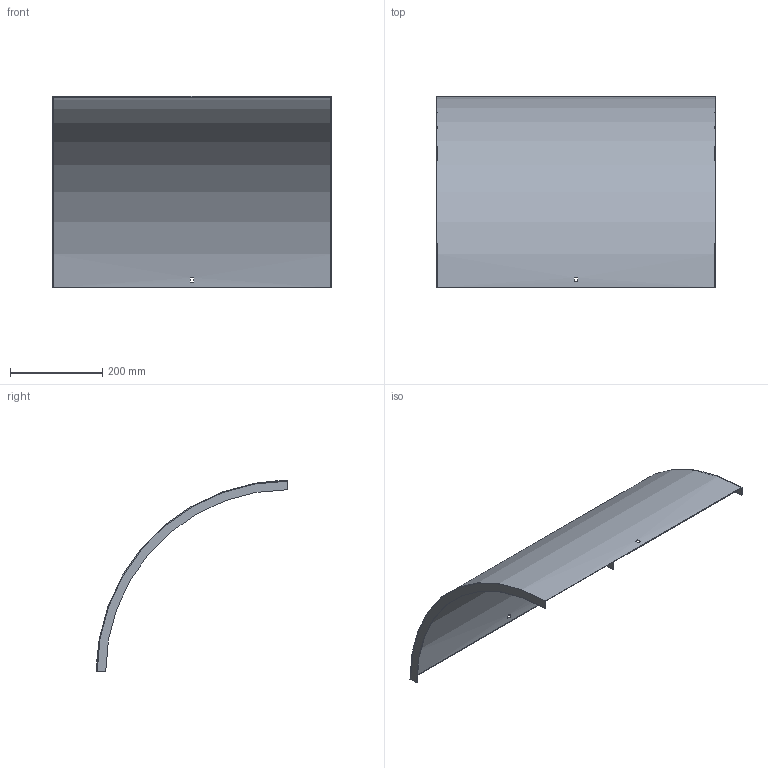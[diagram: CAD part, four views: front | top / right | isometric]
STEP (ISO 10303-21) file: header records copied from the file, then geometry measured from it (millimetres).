
FILE_DESCRIPTION (( 'STEP AP214' ), '1' );
FILE_NAME ('B2_33N3J600.step', '2025-02-21T10:47:45', ( '' ), ( '' ), 'SwSTEP 2.0', 'SolidWorks 2023', '' );
FILE_SCHEMA (( 'AUTOMOTIVE_DESIGN' ));
Length unit declared in the file: millimetre
Products named in the file (1): B2_33N3J600
Bounding box: 603 x 414 x 414 mm (x, y, z)
Volume: 622118.9 mm3; surface area: 833365.1 mm2
Topology: 1 solids, 1 shells, 18 faces, 48 edges, 32 vertices
Faces by surface type: plane 14, cylinder 4
Entity records: 599 total; most frequent: DIRECTION 102, CARTESIAN_POINT 99, ORIENTED_EDGE 96, EDGE_CURVE 48, AXIS2_PLACEMENT_3D 35, LINE 32, VECTOR 32, VERTEX_POINT 32
